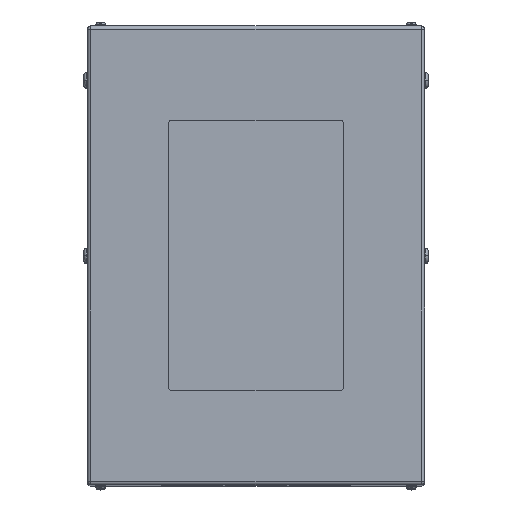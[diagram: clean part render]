
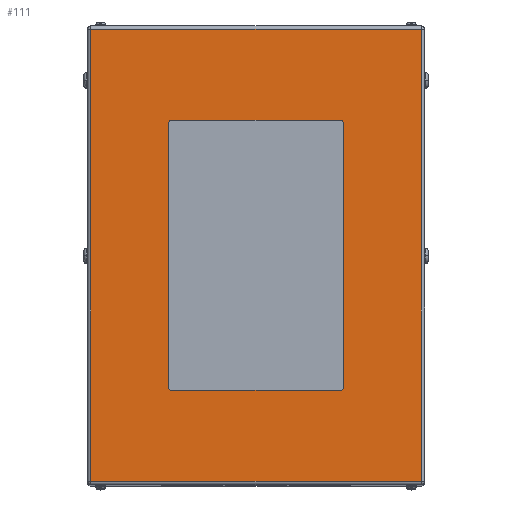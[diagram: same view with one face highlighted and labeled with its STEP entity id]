
A CAD part, top view. The second image highlights one B-rep face of the part: STEP entity #111.
In plain terms, the highlighted planar face has unit normal (0, 0, 1).
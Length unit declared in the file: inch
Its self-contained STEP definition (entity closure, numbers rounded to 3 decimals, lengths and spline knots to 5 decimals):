
#111 = ADVANCED_FACE ( 'NONE', ( #13260, #4325 ), #2729, .F. ) ;
#193 = EDGE_CURVE ( 'NONE', #21693, #1916, #19584, .T. ) ;
#564 = CARTESIAN_POINT ( 'NONE',  ( -12.234, 17., 25.5 ) ) ;
#612 = EDGE_LOOP ( 'NONE', ( #21351, #20175, #3221, #19162, #4118, #19556, #6507, #6512 ) ) ;
#724 = VECTOR ( 'NONE', #8939, 39.37008 ) ;
#1182 = EDGE_CURVE ( 'NONE', #12792, #9089, #7361, .T. ) ;
#1482 = CIRCLE ( 'NONE', #19680, 0.25 ) ;
#1848 = VERTEX_POINT ( 'NONE', #18648 ) ;
#1867 = ORIENTED_EDGE ( 'NONE', *, *, #15366, .T. ) ;
#1916 = VERTEX_POINT ( 'NONE', #3731 ) ;
#2208 = CARTESIAN_POINT ( 'NONE',  ( 12.234, -16.734, 25.5 ) ) ;
#2651 = DIRECTION ( 'NONE',  ( 0., 0., -1. ) ) ;
#2726 = VECTOR ( 'NONE', #6661, 39.37008 ) ;
#2729 = PLANE ( 'NONE',  #8010 ) ;
#3221 = ORIENTED_EDGE ( 'NONE', *, *, #1182, .F. ) ;
#3273 = DIRECTION ( 'NONE',  ( 0., 0., 1. ) ) ;
#3380 = CARTESIAN_POINT ( 'NONE',  ( 6.5, 9.75, 25.5 ) ) ;
#3402 = CARTESIAN_POINT ( 'NONE',  ( 12.234, 17., 25.5 ) ) ;
#3731 = CARTESIAN_POINT ( 'NONE',  ( 6.25, 10., 25.5 ) ) ;
#3759 = EDGE_CURVE ( 'NONE', #13075, #21693, #7508, .T. ) ;
#3793 = CARTESIAN_POINT ( 'NONE',  ( -6.5, 9.75, 25.5 ) ) ;
#4009 = VECTOR ( 'NONE', #19800, 39.37008 ) ;
#4118 = ORIENTED_EDGE ( 'NONE', *, *, #19954, .F. ) ;
#4304 = EDGE_CURVE ( 'NONE', #17106, #12792, #15569, .T. ) ;
#4325 = FACE_OUTER_BOUND ( 'NONE', #4392, .T. ) ;
#4392 = EDGE_LOOP ( 'NONE', ( #20369, #1867, #14772, #12698 ) ) ;
#4653 = EDGE_CURVE ( 'NONE', #13456, #19169, #15097, .T. ) ;
#5186 = CARTESIAN_POINT ( 'NONE',  ( 6.5, -9.75, 25.5 ) ) ;
#5469 = DIRECTION ( 'NONE',  ( 1., 0., 0. ) ) ;
#5764 = LINE ( 'NONE', #18355, #14706 ) ;
#5821 = VECTOR ( 'NONE', #16291, 39.37008 ) ;
#6507 = ORIENTED_EDGE ( 'NONE', *, *, #3759, .F. ) ;
#6512 = ORIENTED_EDGE ( 'NONE', *, *, #15719, .F. ) ;
#6661 = DIRECTION ( 'NONE',  ( 0., 1., 0. ) ) ;
#6901 = EDGE_CURVE ( 'NONE', #9089, #10843, #13136, .T. ) ;
#7319 = CARTESIAN_POINT ( 'NONE',  ( -6.25, -9.75, 25.5 ) ) ;
#7361 = LINE ( 'NONE', #15577, #724 ) ;
#7402 = DIRECTION ( 'NONE',  ( 0., 0., 1. ) ) ;
#7508 = LINE ( 'NONE', #9333, #10945 ) ;
#7590 = LINE ( 'NONE', #564, #15193 ) ;
#7909 = LINE ( 'NONE', #19697, #5821 ) ;
#8010 = AXIS2_PLACEMENT_3D ( 'NONE', #19411, #2651, #12519 ) ;
#8014 = DIRECTION ( 'NONE',  ( 0., 0., 1. ) ) ;
#8066 = VERTEX_POINT ( 'NONE', #17110 ) ;
#8665 = CARTESIAN_POINT ( 'NONE',  ( 12.234, 16.734, 25.5 ) ) ;
#8939 = DIRECTION ( 'NONE',  ( 0., -1., 0. ) ) ;
#9089 = VERTEX_POINT ( 'NONE', #17989 ) ;
#9250 = CARTESIAN_POINT ( 'NONE',  ( -6.25, -10., 25.5 ) ) ;
#9333 = CARTESIAN_POINT ( 'NONE',  ( 6.5, 9.75, 25.5 ) ) ;
#9926 = DIRECTION ( 'NONE',  ( 1., 0., 0. ) ) ;
#10621 = EDGE_CURVE ( 'NONE', #10843, #8066, #13609, .T. ) ;
#10843 = VERTEX_POINT ( 'NONE', #21427 ) ;
#10945 = VECTOR ( 'NONE', #21157, 39.37008 ) ;
#11367 = VERTEX_POINT ( 'NONE', #14296 ) ;
#11528 = CARTESIAN_POINT ( 'NONE',  ( 6.25, -9.75, 25.5 ) ) ;
#11781 = AXIS2_PLACEMENT_3D ( 'NONE', #21615, #8014, #18147 ) ;
#12519 = DIRECTION ( 'NONE',  ( -1., 0., 0. ) ) ;
#12531 = AXIS2_PLACEMENT_3D ( 'NONE', #21320, #16426, #19782 ) ;
#12574 = VECTOR ( 'NONE', #16182, 39.37008 ) ;
#12698 = ORIENTED_EDGE ( 'NONE', *, *, #17093, .T. ) ;
#12792 = VERTEX_POINT ( 'NONE', #3793 ) ;
#13075 = VERTEX_POINT ( 'NONE', #5186 ) ;
#13136 = CIRCLE ( 'NONE', #20196, 0.25 ) ;
#13260 = FACE_BOUND ( 'NONE', #612, .T. ) ;
#13456 = VERTEX_POINT ( 'NONE', #2208 ) ;
#13609 = LINE ( 'NONE', #9250, #12574 ) ;
#13690 = EDGE_CURVE ( 'NONE', #1848, #11367, #7590, .T. ) ;
#14296 = CARTESIAN_POINT ( 'NONE',  ( -12.234, -16.734, 25.5 ) ) ;
#14706 = VECTOR ( 'NONE', #9926, 39.37008 ) ;
#14772 = ORIENTED_EDGE ( 'NONE', *, *, #4653, .T. ) ;
#15097 = LINE ( 'NONE', #3402, #2726 ) ;
#15193 = VECTOR ( 'NONE', #18950, 39.37008 ) ;
#15366 = EDGE_CURVE ( 'NONE', #11367, #13456, #5764, .T. ) ;
#15569 = CIRCLE ( 'NONE', #11781, 0.25 ) ;
#15577 = CARTESIAN_POINT ( 'NONE',  ( -6.5, 9.75, 25.5 ) ) ;
#15719 = EDGE_CURVE ( 'NONE', #8066, #13075, #1482, .T. ) ;
#16182 = DIRECTION ( 'NONE',  ( 1., 0., 0. ) ) ;
#16291 = DIRECTION ( 'NONE',  ( -1., 0., 0. ) ) ;
#16373 = CARTESIAN_POINT ( 'NONE',  ( -6.25, 10., 25.5 ) ) ;
#16426 = DIRECTION ( 'NONE',  ( 0., 0., 1. ) ) ;
#16927 = LINE ( 'NONE', #18025, #4009 ) ;
#17093 = EDGE_CURVE ( 'NONE', #19169, #1848, #16927, .T. ) ;
#17106 = VERTEX_POINT ( 'NONE', #16373 ) ;
#17110 = CARTESIAN_POINT ( 'NONE',  ( 6.25, -10., 25.5 ) ) ;
#17989 = CARTESIAN_POINT ( 'NONE',  ( -6.5, -9.75, 25.5 ) ) ;
#18025 = CARTESIAN_POINT ( 'NONE',  ( 12.5, 16.734, 25.5 ) ) ;
#18147 = DIRECTION ( 'NONE',  ( 1., 0., 0. ) ) ;
#18355 = CARTESIAN_POINT ( 'NONE',  ( 12.234, -16.734, 25.5 ) ) ;
#18479 = DIRECTION ( 'NONE',  ( 1., 0., 0. ) ) ;
#18648 = CARTESIAN_POINT ( 'NONE',  ( -12.234, 16.734, 25.5 ) ) ;
#18950 = DIRECTION ( 'NONE',  ( 0., -1., 0. ) ) ;
#19162 = ORIENTED_EDGE ( 'NONE', *, *, #4304, .F. ) ;
#19169 = VERTEX_POINT ( 'NONE', #8665 ) ;
#19411 = CARTESIAN_POINT ( 'NONE',  ( 12.5, 17., 25.5 ) ) ;
#19556 = ORIENTED_EDGE ( 'NONE', *, *, #193, .F. ) ;
#19584 = CIRCLE ( 'NONE', #12531, 0.25 ) ;
#19680 = AXIS2_PLACEMENT_3D ( 'NONE', #11528, #3273, #18479 ) ;
#19697 = CARTESIAN_POINT ( 'NONE',  ( -6.25, 10., 25.5 ) ) ;
#19782 = DIRECTION ( 'NONE',  ( -1., 0., 0. ) ) ;
#19800 = DIRECTION ( 'NONE',  ( -1., 0., 0. ) ) ;
#19954 = EDGE_CURVE ( 'NONE', #1916, #17106, #7909, .T. ) ;
#20175 = ORIENTED_EDGE ( 'NONE', *, *, #6901, .F. ) ;
#20196 = AXIS2_PLACEMENT_3D ( 'NONE', #7319, #7402, #5469 ) ;
#20369 = ORIENTED_EDGE ( 'NONE', *, *, #13690, .T. ) ;
#21157 = DIRECTION ( 'NONE',  ( 0., 1., 0. ) ) ;
#21320 = CARTESIAN_POINT ( 'NONE',  ( 6.25, 9.75, 25.5 ) ) ;
#21351 = ORIENTED_EDGE ( 'NONE', *, *, #10621, .F. ) ;
#21427 = CARTESIAN_POINT ( 'NONE',  ( -6.25, -10., 25.5 ) ) ;
#21615 = CARTESIAN_POINT ( 'NONE',  ( -6.25, 9.75, 25.5 ) ) ;
#21693 = VERTEX_POINT ( 'NONE', #3380 ) ;
